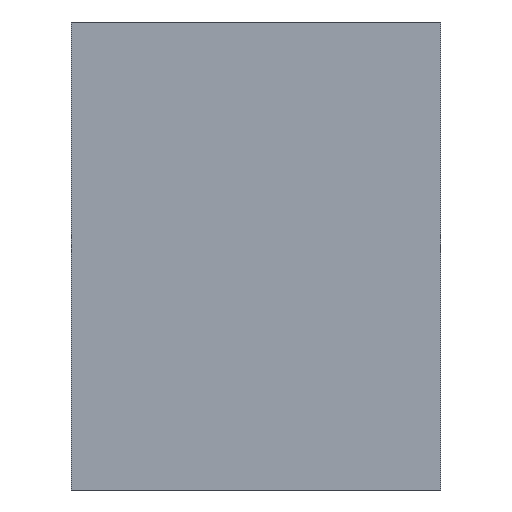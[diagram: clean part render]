
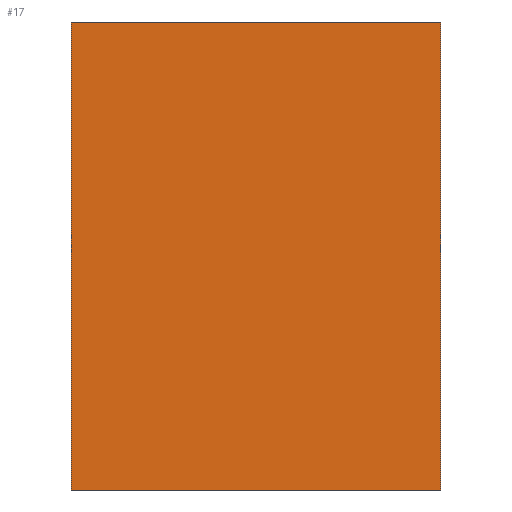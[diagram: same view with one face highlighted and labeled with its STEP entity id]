
A CAD part, left-side view. The second image highlights one B-rep face of the part: STEP entity #17.
In plain terms, the highlighted planar face has unit normal (-1, 0, 0).
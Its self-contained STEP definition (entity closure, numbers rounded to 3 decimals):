
#17 = ADVANCED_FACE('',(#18),#32,.F.);
#18 = FACE_BOUND('',#19,.F.);
#19 = EDGE_LOOP('',(#20,#55,#83,#111));
#20 = ORIENTED_EDGE('',*,*,#21,.F.);
#21 = EDGE_CURVE('',#22,#24,#26,.T.);
#22 = VERTEX_POINT('',#23);
#23 = CARTESIAN_POINT('',(0.,0.,19.));
#24 = VERTEX_POINT('',#25);
#25 = CARTESIAN_POINT('',(0.,15.,19.));
#26 = SURFACE_CURVE('',#27,(#31,#43),.PCURVE_S1.);
#27 = LINE('',#28,#29);
#28 = CARTESIAN_POINT('',(0.,0.,19.));
#29 = VECTOR('',#30,1.);
#30 = DIRECTION('',(0.,1.,0.));
#31 = PCURVE('',#32,#37);
#32 = PLANE('',#33);
#33 = AXIS2_PLACEMENT_3D('',#34,#35,#36);
#34 = CARTESIAN_POINT('',(0.,0.,19.));
#35 = DIRECTION('',(1.,0.,0.));
#36 = DIRECTION('',(0.,1.,0.));
#37 = DEFINITIONAL_REPRESENTATION('',(#38),#42);
#38 = LINE('',#39,#40);
#39 = CARTESIAN_POINT('',(0.,0.));
#40 = VECTOR('',#41,1.);
#41 = DIRECTION('',(1.,0.));
#42 = ( GEOMETRIC_REPRESENTATION_CONTEXT(2) 
PARAMETRIC_REPRESENTATION_CONTEXT() REPRESENTATION_CONTEXT('2D SPACE',''
  ) );
#43 = PCURVE('',#44,#49);
#44 = PLANE('',#45);
#45 = AXIS2_PLACEMENT_3D('',#46,#47,#48);
#46 = CARTESIAN_POINT('',(0.,0.,19.));
#47 = DIRECTION('',(0.,0.,-1.));
#48 = DIRECTION('',(0.,1.,0.));
#49 = DEFINITIONAL_REPRESENTATION('',(#50),#54);
#50 = LINE('',#51,#52);
#51 = CARTESIAN_POINT('',(0.,0.));
#52 = VECTOR('',#53,1.);
#53 = DIRECTION('',(1.,0.));
#54 = ( GEOMETRIC_REPRESENTATION_CONTEXT(2) 
PARAMETRIC_REPRESENTATION_CONTEXT() REPRESENTATION_CONTEXT('2D SPACE',''
  ) );
#55 = ORIENTED_EDGE('',*,*,#56,.T.);
#56 = EDGE_CURVE('',#22,#57,#59,.T.);
#57 = VERTEX_POINT('',#58);
#58 = CARTESIAN_POINT('',(0.,0.,0.));
#59 = SURFACE_CURVE('',#60,(#64,#71),.PCURVE_S1.);
#60 = LINE('',#61,#62);
#61 = CARTESIAN_POINT('',(0.,0.,19.));
#62 = VECTOR('',#63,1.);
#63 = DIRECTION('',(0.,0.,-1.));
#64 = PCURVE('',#32,#65);
#65 = DEFINITIONAL_REPRESENTATION('',(#66),#70);
#66 = LINE('',#67,#68);
#67 = CARTESIAN_POINT('',(0.,0.));
#68 = VECTOR('',#69,1.);
#69 = DIRECTION('',(0.,-1.));
#70 = ( GEOMETRIC_REPRESENTATION_CONTEXT(2) 
PARAMETRIC_REPRESENTATION_CONTEXT() REPRESENTATION_CONTEXT('2D SPACE',''
  ) );
#71 = PCURVE('',#72,#77);
#72 = PLANE('',#73);
#73 = AXIS2_PLACEMENT_3D('',#74,#75,#76);
#74 = CARTESIAN_POINT('',(0.,0.,19.));
#75 = DIRECTION('',(0.,1.,0.));
#76 = DIRECTION('',(1.,0.,0.));
#77 = DEFINITIONAL_REPRESENTATION('',(#78),#82);
#78 = LINE('',#79,#80);
#79 = CARTESIAN_POINT('',(0.,0.));
#80 = VECTOR('',#81,1.);
#81 = DIRECTION('',(0.,1.));
#82 = ( GEOMETRIC_REPRESENTATION_CONTEXT(2) 
PARAMETRIC_REPRESENTATION_CONTEXT() REPRESENTATION_CONTEXT('2D SPACE',''
  ) );
#83 = ORIENTED_EDGE('',*,*,#84,.T.);
#84 = EDGE_CURVE('',#57,#85,#87,.T.);
#85 = VERTEX_POINT('',#86);
#86 = CARTESIAN_POINT('',(0.,15.,0.));
#87 = SURFACE_CURVE('',#88,(#92,#99),.PCURVE_S1.);
#88 = LINE('',#89,#90);
#89 = CARTESIAN_POINT('',(0.,0.,0.));
#90 = VECTOR('',#91,1.);
#91 = DIRECTION('',(0.,1.,0.));
#92 = PCURVE('',#32,#93);
#93 = DEFINITIONAL_REPRESENTATION('',(#94),#98);
#94 = LINE('',#95,#96);
#95 = CARTESIAN_POINT('',(0.,-19.));
#96 = VECTOR('',#97,1.);
#97 = DIRECTION('',(1.,0.));
#98 = ( GEOMETRIC_REPRESENTATION_CONTEXT(2) 
PARAMETRIC_REPRESENTATION_CONTEXT() REPRESENTATION_CONTEXT('2D SPACE',''
  ) );
#99 = PCURVE('',#100,#105);
#100 = PLANE('',#101);
#101 = AXIS2_PLACEMENT_3D('',#102,#103,#104);
#102 = CARTESIAN_POINT('',(0.,0.,0.));
#103 = DIRECTION('',(0.,0.,-1.));
#104 = DIRECTION('',(0.,1.,0.));
#105 = DEFINITIONAL_REPRESENTATION('',(#106),#110);
#106 = LINE('',#107,#108);
#107 = CARTESIAN_POINT('',(0.,0.));
#108 = VECTOR('',#109,1.);
#109 = DIRECTION('',(1.,0.));
#110 = ( GEOMETRIC_REPRESENTATION_CONTEXT(2) 
PARAMETRIC_REPRESENTATION_CONTEXT() REPRESENTATION_CONTEXT('2D SPACE',''
  ) );
#111 = ORIENTED_EDGE('',*,*,#112,.F.);
#112 = EDGE_CURVE('',#24,#85,#113,.T.);
#113 = SURFACE_CURVE('',#114,(#118,#125),.PCURVE_S1.);
#114 = LINE('',#115,#116);
#115 = CARTESIAN_POINT('',(0.,15.,19.));
#116 = VECTOR('',#117,1.);
#117 = DIRECTION('',(0.,0.,-1.));
#118 = PCURVE('',#32,#119);
#119 = DEFINITIONAL_REPRESENTATION('',(#120),#124);
#120 = LINE('',#121,#122);
#121 = CARTESIAN_POINT('',(15.,0.));
#122 = VECTOR('',#123,1.);
#123 = DIRECTION('',(0.,-1.));
#124 = ( GEOMETRIC_REPRESENTATION_CONTEXT(2) 
PARAMETRIC_REPRESENTATION_CONTEXT() REPRESENTATION_CONTEXT('2D SPACE',''
  ) );
#125 = PCURVE('',#126,#131);
#126 = PLANE('',#127);
#127 = AXIS2_PLACEMENT_3D('',#128,#129,#130);
#128 = CARTESIAN_POINT('',(0.,15.,19.));
#129 = DIRECTION('',(0.,1.,0.));
#130 = DIRECTION('',(1.,0.,0.));
#131 = DEFINITIONAL_REPRESENTATION('',(#132),#136);
#132 = LINE('',#133,#134);
#133 = CARTESIAN_POINT('',(0.,0.));
#134 = VECTOR('',#135,1.);
#135 = DIRECTION('',(0.,1.));
#136 = ( GEOMETRIC_REPRESENTATION_CONTEXT(2) 
PARAMETRIC_REPRESENTATION_CONTEXT() REPRESENTATION_CONTEXT('2D SPACE',''
  ) );
